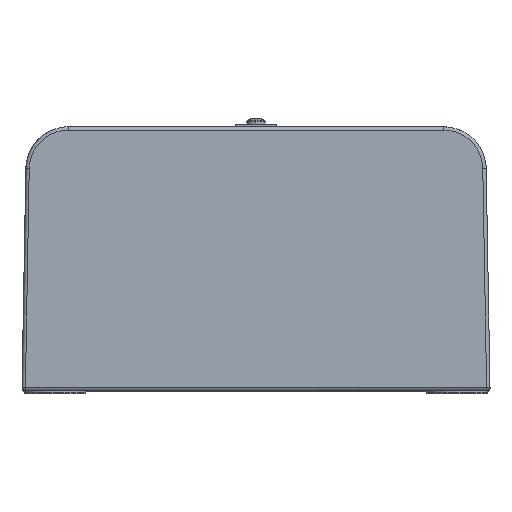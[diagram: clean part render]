
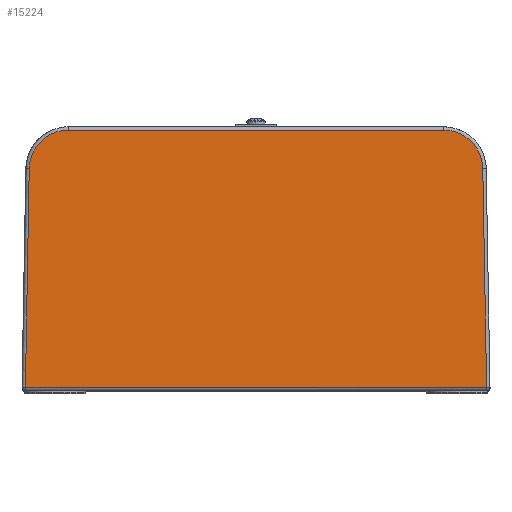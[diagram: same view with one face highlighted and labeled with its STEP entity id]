
A CAD part, top view. The second image highlights one B-rep face of the part: STEP entity #15224.
In plain terms, the highlighted planar face has unit normal (0, 0.018, 1).
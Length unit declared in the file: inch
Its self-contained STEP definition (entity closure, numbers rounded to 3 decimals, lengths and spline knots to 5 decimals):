
#3447 = CARTESIAN_POINT ( 'NONE',  ( -2.7093, 0.0407, 4.26929 ) ) ;
#3484 = CARTESIAN_POINT ( 'NONE',  ( -2.66447, 2.60873, 4.22446 ) ) ;
#3491 = CARTESIAN_POINT ( 'NONE',  ( 2.7093, 0.0407, 4.26929 ) ) ;
#3492 = CARTESIAN_POINT ( 'NONE',  ( 2.66447, 2.60873, 4.22446 ) ) ;
#3493 = CARTESIAN_POINT ( 'NONE',  ( 2.20454, 3.0607, 4.21658 ) ) ;
#3494 = CARTESIAN_POINT ( 'NONE',  ( -2.20454, 3.0607, 4.21658 ) ) ;
#13172 = CARTESIAN_POINT ( 'NONE',  ( -3., 0., 4.27 ) ) ;
#13175 = FACE_OUTER_BOUND ( 'NONE', #13970, .T. ) ;
#13176 = PLANE ( 'NONE',  #32989 ) ;
#13178 = DIRECTION ( 'NONE',  ( 0., -0.017, -1. ) ) ;
#13179 = DIRECTION ( 'NONE',  ( 0., 1., -0.017 ) ) ;
#13970 = EDGE_LOOP ( 'NONE', ( #47319, #47317, #47315, #47313, #47311, #47309 ) ) ;
#15224 = ADVANCED_FACE ( 'NONE', ( #13175 ), #13176, .F. ) ;
#22783 = CARTESIAN_POINT ( 'NONE',  ( 2.65983, 2.87443, 4.21983 ) ) ;
#22784 = LINE ( 'NONE', #22791, #40165 ) ;
#22787 = LINE ( 'NONE', #22789, #40164 ) ;
#22788 = CARTESIAN_POINT ( 'NONE',  ( 2.66447, 2.60873, 4.22446 ) ) ;
#22789 = CARTESIAN_POINT ( 'NONE',  ( -2.71009, -0.00506, 4.27009 ) ) ;
#22790 = DIRECTION ( 'NONE',  ( -0.017, -1., 0.017 ) ) ;
#22791 = CARTESIAN_POINT ( 'NONE',  ( -3., 0.0407, 4.26929 ) ) ;
#22792 = DIRECTION ( 'NONE',  ( 1., 0., 0. ) ) ;
#22793 = LINE ( 'NONE', #22794, #40163 ) ;
#22794 = CARTESIAN_POINT ( 'NONE',  ( 2.70827, 0.09961, 4.26826 ) ) ;
#22795 = DIRECTION ( 'NONE',  ( -0.017, 1., -0.017 ) ) ;
#22796 = CARTESIAN_POINT ( 'NONE',  ( -2.20454, 3.0607, 4.21658 ) ) ;
#22797 = CARTESIAN_POINT ( 'NONE',  ( -2.47029, 3.0607, 4.21658 ) ) ;
#22798 = CARTESIAN_POINT ( 'NONE',  ( 2.47029, 3.0607, 4.21658 ) ) ;
#22799 = CARTESIAN_POINT ( 'NONE',  ( 2.20454, 3.0607, 4.21658 ) ) ;
#22800 = LINE ( 'NONE', #22801, #40166 ) ;
#22801 = CARTESIAN_POINT ( 'NONE',  ( -3., 3.0607, 4.21658 ) ) ;
#22802 = DIRECTION ( 'NONE',  ( -1., 0., 0. ) ) ;
#22805 = CARTESIAN_POINT ( 'NONE',  ( -2.65983, 2.87443, 4.21983 ) ) ;
#22806 = CARTESIAN_POINT ( 'NONE',  ( -2.66447, 2.60873, 4.22446 ) ) ;
#29795 =( BOUNDED_CURVE ( )  B_SPLINE_CURVE ( 3, ( #22788, #22783, #22798, #22799 ),
 .UNSPECIFIED., .F., .T. ) 
 B_SPLINE_CURVE_WITH_KNOTS ( ( 4, 4 ),
 ( 4.72984, 6.28319 ),
 .UNSPECIFIED. ) 
 CURVE ( )  GEOMETRIC_REPRESENTATION_ITEM ( )  RATIONAL_B_SPLINE_CURVE ( ( 1., 0.809, 0.809, 1. ) ) 
 REPRESENTATION_ITEM ( '' )  );
#29800 =( BOUNDED_CURVE ( )  B_SPLINE_CURVE ( 3, ( #22796, #22797, #22805, #22806 ),
 .UNSPECIFIED., .F., .T. ) 
 B_SPLINE_CURVE_WITH_KNOTS ( ( 4, 4 ),
 ( 0., 1.55334 ),
 .UNSPECIFIED. ) 
 CURVE ( )  GEOMETRIC_REPRESENTATION_ITEM ( )  RATIONAL_B_SPLINE_CURVE ( ( 1., 0.809, 0.809, 1. ) ) 
 REPRESENTATION_ITEM ( '' )  );
#32989 = AXIS2_PLACEMENT_3D ( 'NONE', #13172, #13178, #13179 ) ;
#33185 = EDGE_CURVE ( 'NONE', #58341, #58345, #22787, .T. ) ;
#33186 = EDGE_CURVE ( 'NONE', #58345, #58349, #22784, .T. ) ;
#33187 = EDGE_CURVE ( 'NONE', #58349, #58350, #22793, .T. ) ;
#33188 = EDGE_CURVE ( 'NONE', #58350, #58351, #29795, .T. ) ;
#33189 = EDGE_CURVE ( 'NONE', #58351, #58352, #22800, .T. ) ;
#33190 = EDGE_CURVE ( 'NONE', #58352, #58341, #29800, .T. ) ;
#40163 = VECTOR ( 'NONE', #22795, 39.37008 ) ;
#40164 = VECTOR ( 'NONE', #22790, 39.37008 ) ;
#40165 = VECTOR ( 'NONE', #22792, 39.37008 ) ;
#40166 = VECTOR ( 'NONE', #22802, 39.37008 ) ;
#47309 = ORIENTED_EDGE ( 'NONE', *, *, #33190, .T. ) ;
#47311 = ORIENTED_EDGE ( 'NONE', *, *, #33189, .T. ) ;
#47313 = ORIENTED_EDGE ( 'NONE', *, *, #33188, .T. ) ;
#47315 = ORIENTED_EDGE ( 'NONE', *, *, #33187, .T. ) ;
#47317 = ORIENTED_EDGE ( 'NONE', *, *, #33186, .T. ) ;
#47319 = ORIENTED_EDGE ( 'NONE', *, *, #33185, .T. ) ;
#58341 = VERTEX_POINT ( 'NONE', #3484 ) ;
#58345 = VERTEX_POINT ( 'NONE', #3447 ) ;
#58349 = VERTEX_POINT ( 'NONE', #3491 ) ;
#58350 = VERTEX_POINT ( 'NONE', #3492 ) ;
#58351 = VERTEX_POINT ( 'NONE', #3493 ) ;
#58352 = VERTEX_POINT ( 'NONE', #3494 ) ;
